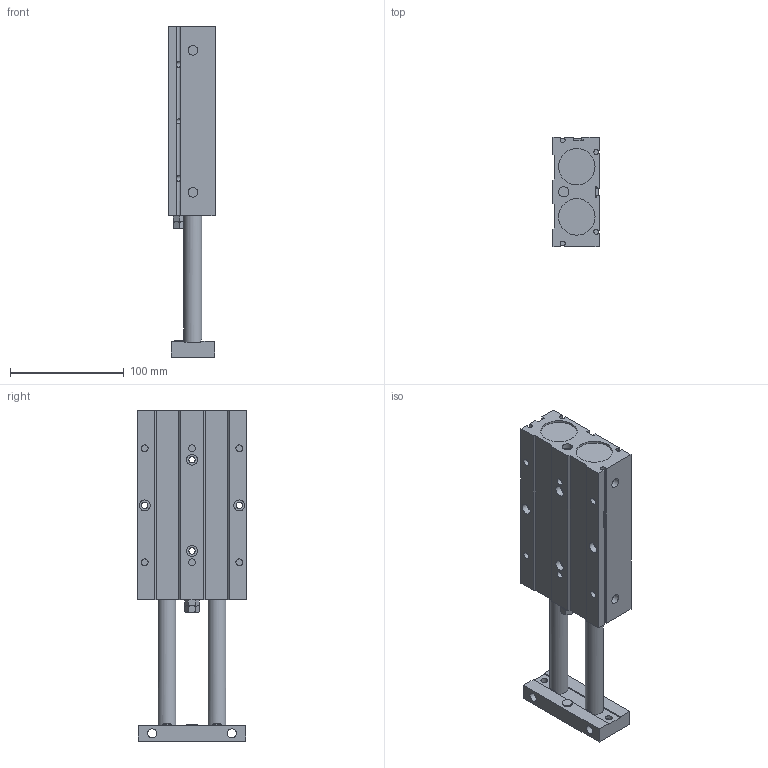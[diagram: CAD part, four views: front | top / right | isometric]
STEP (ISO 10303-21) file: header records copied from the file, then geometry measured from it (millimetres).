
FILE_DESCRIPTION((''),'2;1');
FILE_NAME('I:\3D電子目錄\氣缸\TD\TD32\TD32\TD32x100.stp','2007-08-06T10:18:37',('Administrator'),(''),'Autodesk Inventor 2008','Autodesk Inventor 2008','');
FILE_SCHEMA(('AUTOMOTIVE_DESIGN { 1 0 10303 214 1 1 1 1 }'));
Length unit declared in the file: millimetre
Products named in the file (1): TD32X100
Bounding box: 40.5 x 96 x 290 mm (x, y, z)
Volume: 687960.2 mm3; surface area: 93756.1 mm2
Topology: 1 solids, 3 shells, 186 faces, 458 edges, 304 vertices
Faces by surface type: plane 131, cylinder 42, cone 7, bspline 4, torus 2
Full cylindrical faces by diameter (mm): 5.5 x4, 6 x8, 8 x2, 8.5 x2, 9 x2, 9.5 x8, 12 x2, 13 x2, 14 x2, 16 x2, 32 x4
Entity records: 6063 total; most frequent: CARTESIAN_POINT 1776, DIRECTION 851, ORIENTED_EDGE 802, EDGE_CURVE 401, EDGE_LOOP 297, AXIS2_PLACEMENT_3D 295, VERTEX_POINT 294, VECTOR 261
